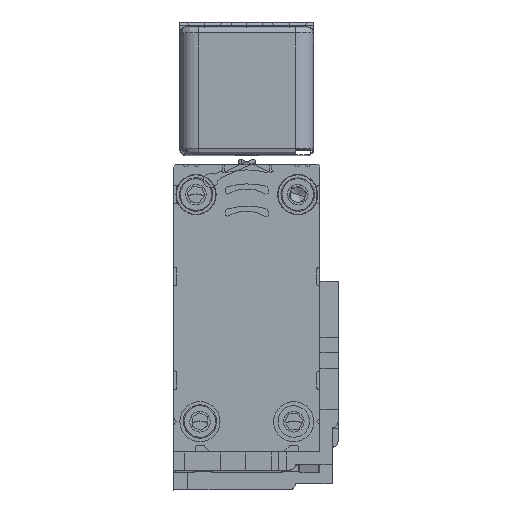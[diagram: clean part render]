
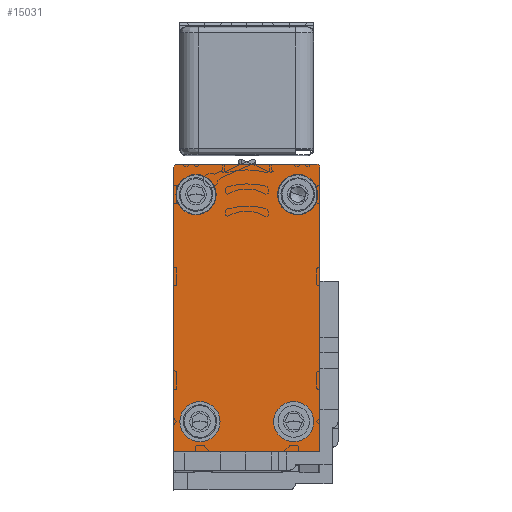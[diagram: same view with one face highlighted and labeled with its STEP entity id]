
A CAD part, top view. The second image highlights one B-rep face of the part: STEP entity #15031.
In plain terms, the highlighted planar face has unit normal (0, 0, 1).
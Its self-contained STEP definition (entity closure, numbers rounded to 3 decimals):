
#97 = LINE ( 'NONE', #21532, #23661 ) ;
#191 = CARTESIAN_POINT ( 'NONE',  ( 1.676, -15.887, 3185. ) ) ;
#209 = CIRCLE ( 'NONE', #7371, 3.302 ) ;
#260 = CARTESIAN_POINT ( 'NONE',  ( 5.485, 26.371, 3185. ) ) ;
#383 = AXIS2_PLACEMENT_3D ( 'NONE', #26477, #13206, #28691 ) ;
#520 = EDGE_CURVE ( 'NONE', #15413, #2532, #23203, .T. ) ;
#660 = ORIENTED_EDGE ( 'NONE', *, *, #25022, .T. ) ;
#760 = DIRECTION ( 'NONE',  ( -1., 0., 0. ) ) ;
#825 = CARTESIAN_POINT ( 'NONE',  ( -10.412, -15.887, 3185. ) ) ;
#858 = DIRECTION ( 'NONE',  ( -1., 0., 0. ) ) ;
#1445 = EDGE_CURVE ( 'NONE', #25266, #27962, #14153, .T. ) ;
#1736 = CARTESIAN_POINT ( 'NONE',  ( -14.365, 21.401, 3185. ) ) ;
#1830 = CARTESIAN_POINT ( 'NONE',  ( -18.014, -20.888, 3185. ) ) ;
#2449 = DIRECTION ( 'NONE',  ( -1., 0., 0. ) ) ;
#2480 = DIRECTION ( 'NONE',  ( 0., 0., 1. ) ) ;
#2532 = VERTEX_POINT ( 'NONE', #15971 ) ;
#2597 = AXIS2_PLACEMENT_3D ( 'NONE', #27329, #14039, #760 ) ;
#2751 = VERTEX_POINT ( 'NONE', #27843 ) ;
#3088 = EDGE_LOOP ( 'NONE', ( #10046, #20243 ) ) ;
#3163 = CARTESIAN_POINT ( 'NONE',  ( 5.485, 26.371, 3185. ) ) ;
#3324 = LINE ( 'NONE', #3163, #14400 ) ;
#3402 = CIRCLE ( 'NONE', #24830, 0.5 ) ;
#3984 = DIRECTION ( 'NONE',  ( -1., 0., 0. ) ) ;
#4153 = DIRECTION ( 'NONE',  ( 0., 0., -1. ) ) ;
#4243 = FACE_BOUND ( 'NONE', #3088, .T. ) ;
#4542 = ORIENTED_EDGE ( 'NONE', *, *, #20357, .T. ) ;
#4707 = EDGE_CURVE ( 'NONE', #2751, #22807, #15181, .T. ) ;
#4815 = ORIENTED_EDGE ( 'NONE', *, *, #8720, .F. ) ;
#5552 = EDGE_CURVE ( 'NONE', #14539, #23640, #209, .T. ) ;
#5700 = AXIS2_PLACEMENT_3D ( 'NONE', #15727, #2480, #17929 ) ;
#5951 = ORIENTED_EDGE ( 'NONE', *, *, #19420, .T. ) ;
#5964 = VERTEX_POINT ( 'NONE', #17373 ) ;
#5981 = DIRECTION ( 'NONE',  ( 0., 0., -1. ) ) ;
#5990 = CARTESIAN_POINT ( 'NONE',  ( 5.984, 7.11, 3185. ) ) ;
#6612 = CIRCLE ( 'NONE', #26823, 3.302 ) ;
#7017 = DIRECTION ( 'NONE',  ( 0., 0., -1. ) ) ;
#7371 = AXIS2_PLACEMENT_3D ( 'NONE', #20868, #7660, #23093 ) ;
#7370 = CARTESIAN_POINT ( 'NONE',  ( 4.978, -15.887, 3185. ) ) ;
#7452 = ORIENTED_EDGE ( 'NONE', *, *, #4707, .T. ) ;
#7567 = EDGE_LOOP ( 'NONE', ( #7452, #22665 ) ) ;
#7625 = AXIS2_PLACEMENT_3D ( 'NONE', #191, #15699, #2449 ) ;
#7660 = DIRECTION ( 'NONE',  ( 0., 0., -1. ) ) ;
#8123 = CARTESIAN_POINT ( 'NONE',  ( -11.063, 21.401, 3185. ) ) ;
#8720 = EDGE_CURVE ( 'NONE', #9201, #14741, #3402, .T. ) ;
#8975 = EDGE_LOOP ( 'NONE', ( #4542, #16667 ) ) ;
#9201 = VERTEX_POINT ( 'NONE', #22769 ) ;
#9454 = VECTOR ( 'NONE', #17316, 1000. ) ;
#9577 = CARTESIAN_POINT ( 'NONE',  ( -17.017, -15.887, 3185. ) ) ;
#9749 = ORIENTED_EDGE ( 'NONE', *, *, #10562, .T. ) ;
#10046 = ORIENTED_EDGE ( 'NONE', *, *, #16844, .T. ) ;
#10562 = EDGE_CURVE ( 'NONE', #14823, #5964, #21603, .T. ) ;
#10742 = DIRECTION ( 'NONE',  ( 0., 1., 0. ) ) ;
#10987 = DIRECTION ( 'NONE',  ( 0., -1., 0. ) ) ;
#11028 = CARTESIAN_POINT ( 'NONE',  ( 2.335, 21.401, 3185. ) ) ;
#11107 = EDGE_CURVE ( 'NONE', #5964, #14352, #19439, .T. ) ;
#11939 = EDGE_LOOP ( 'NONE', ( #5951, #9749, #20948, #660, #4815, #16053, #16964 ) ) ;
#12426 = CIRCLE ( 'NONE', #7625, 3.302 ) ;
#13096 = AXIS2_PLACEMENT_3D ( 'NONE', #11028, #26531, #13256 ) ;
#13206 = DIRECTION ( 'NONE',  ( 0., 0., 1. ) ) ;
#13256 = DIRECTION ( 'NONE',  ( -1., 0., 0. ) ) ;
#13561 = VERTEX_POINT ( 'NONE', #18293 ) ;
#14039 = DIRECTION ( 'NONE',  ( 0., 0., -1. ) ) ;
#14144 = DIRECTION ( 'NONE',  ( 0., 0., -1. ) ) ;
#14153 = CIRCLE ( 'NONE', #17801, 3.302 ) ;
#14352 = VERTEX_POINT ( 'NONE', #260 ) ;
#14400 = VECTOR ( 'NONE', #20839, 1000. ) ;
#14539 = VERTEX_POINT ( 'NONE', #825 ) ;
#14741 = VERTEX_POINT ( 'NONE', #18730 ) ;
#14823 = VERTEX_POINT ( 'NONE', #5990 ) ;
#15031 = ADVANCED_FACE ( 'NONE', ( #21868, #21194, #4243, #16002, #15313 ), #20065, .T. ) ;
#15166 = EDGE_CURVE ( 'NONE', #13561, #19165, #26380, .T. ) ;
#15181 = CIRCLE ( 'NONE', #28299, 3.302 ) ;
#15313 = FACE_OUTER_BOUND ( 'NONE', #11939, .T. ) ;
#15413 = VERTEX_POINT ( 'NONE', #7370 ) ;
#15699 = DIRECTION ( 'NONE',  ( 0., 0., -1. ) ) ;
#15727 = CARTESIAN_POINT ( 'NONE',  ( -18.014, -20.888, 3185. ) ) ;
#15971 = CARTESIAN_POINT ( 'NONE',  ( -1.626, -15.887, 3185. ) ) ;
#16002 = FACE_BOUND ( 'NONE', #8975, .T. ) ;
#16053 = ORIENTED_EDGE ( 'NONE', *, *, #28534, .T. ) ;
#16667 = ORIENTED_EDGE ( 'NONE', *, *, #5552, .T. ) ;
#16844 = EDGE_CURVE ( 'NONE', #2532, #15413, #12426, .T. ) ;
#16964 = ORIENTED_EDGE ( 'NONE', *, *, #15166, .T. ) ;
#17213 = DIRECTION ( 'NONE',  ( 0., 0., -1. ) ) ;
#17316 = DIRECTION ( 'NONE',  ( 1., 0., 0. ) ) ;
#17373 = CARTESIAN_POINT ( 'NONE',  ( 5.984, 25.871, 3185. ) ) ;
#17377 = CARTESIAN_POINT ( 'NONE',  ( -14.365, 21.401, 3185. ) ) ;
#17801 = AXIS2_PLACEMENT_3D ( 'NONE', #1736, #17213, #3984 ) ;
#17929 = DIRECTION ( 'NONE',  ( -1., 0., 0. ) ) ;
#18192 = LINE ( 'NONE', #24245, #23391 ) ;
#18293 = CARTESIAN_POINT ( 'NONE',  ( -18.014, -20.888, 3185. ) ) ;
#18730 = CARTESIAN_POINT ( 'NONE',  ( -17.514, 26.371, 3185. ) ) ;
#18737 = EDGE_CURVE ( 'NONE', #22807, #2751, #18886, .T. ) ;
#18886 = CIRCLE ( 'NONE', #13096, 3.302 ) ;
#19165 = VERTEX_POINT ( 'NONE', #20767 ) ;
#19185 = CARTESIAN_POINT ( 'NONE',  ( -17.514, 25.871, 3185. ) ) ;
#19420 = EDGE_CURVE ( 'NONE', #19165, #14823, #97, .T. ) ;
#19439 = CIRCLE ( 'NONE', #383, 0.5 ) ;
#19582 = DIRECTION ( 'NONE',  ( -1., 0., 0. ) ) ;
#20065 = PLANE ( 'NONE',  #5700 ) ;
#20234 = CARTESIAN_POINT ( 'NONE',  ( 2.335, 21.401, 3185. ) ) ;
#20243 = ORIENTED_EDGE ( 'NONE', *, *, #520, .T. ) ;
#20357 = EDGE_CURVE ( 'NONE', #23640, #14539, #24978, .T. ) ;
#20365 = CARTESIAN_POINT ( 'NONE',  ( 5.637, 21.401, 3185. ) ) ;
#20767 = CARTESIAN_POINT ( 'NONE',  ( 5.984, -20.888, 3185. ) ) ;
#20839 = DIRECTION ( 'NONE',  ( -1., 0., 0. ) ) ;
#20868 = CARTESIAN_POINT ( 'NONE',  ( -13.714, -15.887, 3185. ) ) ;
#20948 = ORIENTED_EDGE ( 'NONE', *, *, #11107, .T. ) ;
#21194 = FACE_BOUND ( 'NONE', #7567, .T. ) ;
#21434 = DIRECTION ( 'NONE',  ( 0., 1., 0. ) ) ;
#21532 = CARTESIAN_POINT ( 'NONE',  ( 5.984, -20.888, 3185. ) ) ;
#21603 = LINE ( 'NONE', #28457, #26848 ) ;
#21826 = CARTESIAN_POINT ( 'NONE',  ( -17.667, 21.401, 3185. ) ) ;
#21868 = FACE_BOUND ( 'NONE', #24903, .T. ) ;
#22462 = DIRECTION ( 'NONE',  ( -1., 0., 0. ) ) ;
#22665 = ORIENTED_EDGE ( 'NONE', *, *, #18737, .T. ) ;
#22769 = CARTESIAN_POINT ( 'NONE',  ( -18.014, 25.871, 3185. ) ) ;
#22807 = VERTEX_POINT ( 'NONE', #20365 ) ;
#23093 = DIRECTION ( 'NONE',  ( -1., 0., 0. ) ) ;
#23203 = CIRCLE ( 'NONE', #2597, 3.302 ) ;
#23391 = VECTOR ( 'NONE', #10987, 1000. ) ;
#23525 = AXIS2_PLACEMENT_3D ( 'NONE', #27442, #14144, #858 ) ;
#23640 = VERTEX_POINT ( 'NONE', #9577 ) ;
#23661 = VECTOR ( 'NONE', #23754, 1000. ) ;
#23754 = DIRECTION ( 'NONE',  ( 0., 1., 0. ) ) ;
#24245 = CARTESIAN_POINT ( 'NONE',  ( -18.014, 25.871, 3185. ) ) ;
#24830 = AXIS2_PLACEMENT_3D ( 'NONE', #19185, #5981, #21434 ) ;
#24903 = EDGE_LOOP ( 'NONE', ( #26358, #26910 ) ) ;
#24978 = CIRCLE ( 'NONE', #23525, 3.302 ) ;
#25022 = EDGE_CURVE ( 'NONE', #14352, #14741, #3324, .T. ) ;
#25266 = VERTEX_POINT ( 'NONE', #8123 ) ;
#26358 = ORIENTED_EDGE ( 'NONE', *, *, #27905, .T. ) ;
#26380 = LINE ( 'NONE', #1830, #9454 ) ;
#26477 = CARTESIAN_POINT ( 'NONE',  ( 5.485, 25.871, 3185. ) ) ;
#26531 = DIRECTION ( 'NONE',  ( 0., 0., -1. ) ) ;
#26823 = AXIS2_PLACEMENT_3D ( 'NONE', #17377, #4153, #19582 ) ;
#26848 = VECTOR ( 'NONE', #10742, 1000. ) ;
#26910 = ORIENTED_EDGE ( 'NONE', *, *, #1445, .T. ) ;
#27329 = CARTESIAN_POINT ( 'NONE',  ( 1.676, -15.887, 3185. ) ) ;
#27442 = CARTESIAN_POINT ( 'NONE',  ( -13.714, -15.887, 3185. ) ) ;
#27843 = CARTESIAN_POINT ( 'NONE',  ( -0.967, 21.401, 3185. ) ) ;
#27905 = EDGE_CURVE ( 'NONE', #27962, #25266, #6612, .T. ) ;
#27962 = VERTEX_POINT ( 'NONE', #21826 ) ;
#28299 = AXIS2_PLACEMENT_3D ( 'NONE', #20234, #7017, #22462 ) ;
#28457 = CARTESIAN_POINT ( 'NONE',  ( 5.984, 7.11, 3185. ) ) ;
#28534 = EDGE_CURVE ( 'NONE', #9201, #13561, #18192, .T. ) ;
#28691 = DIRECTION ( 'NONE',  ( 0., 1., 0. ) ) ;
